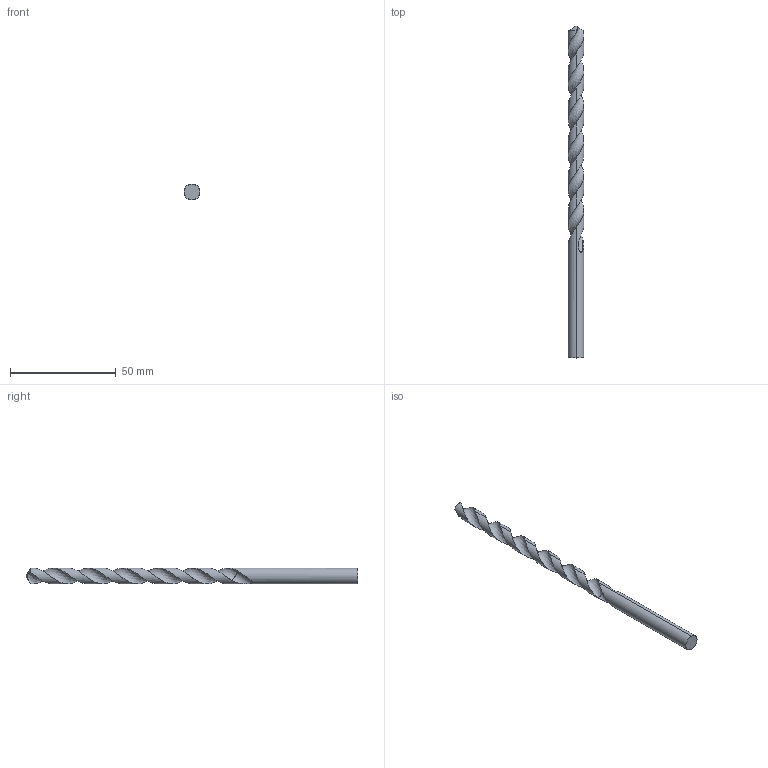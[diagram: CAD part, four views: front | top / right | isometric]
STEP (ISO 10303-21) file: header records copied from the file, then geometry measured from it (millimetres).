
FILE_DESCRIPTION (( 'STEP AP214' ), '1' );
FILE_NAME ('084.818.006.STEP', '2021-02-05T11:02:23', ( '' ), ( '' ), 'SwSTEP 2.0', 'SolidWorks 2018', '' );
FILE_SCHEMA (( 'AUTOMOTIVE_DESIGN' ));
Length unit declared in the file: millimetre
Products named in the file (1): 084.818.006
Bounding box: 7.5 x 156.8 x 7.5 mm (x, y, z)
Volume: 4513.1 mm3; surface area: 3822.5 mm2
Topology: 1 solids, 1 shells, 23 faces, 62 edges, 39 vertices
Faces by surface type: cylinder 16, plane 3, cone 2, bspline 2
Entity records: 4060 total; most frequent: CARTESIAN_POINT 3557, ORIENTED_EDGE 120, DIRECTION 78, EDGE_CURVE 60, VERTEX_POINT 39, AXIS2_PLACEMENT_3D 30, FACE_OUTER_BOUND 23, ADVANCED_FACE 23
